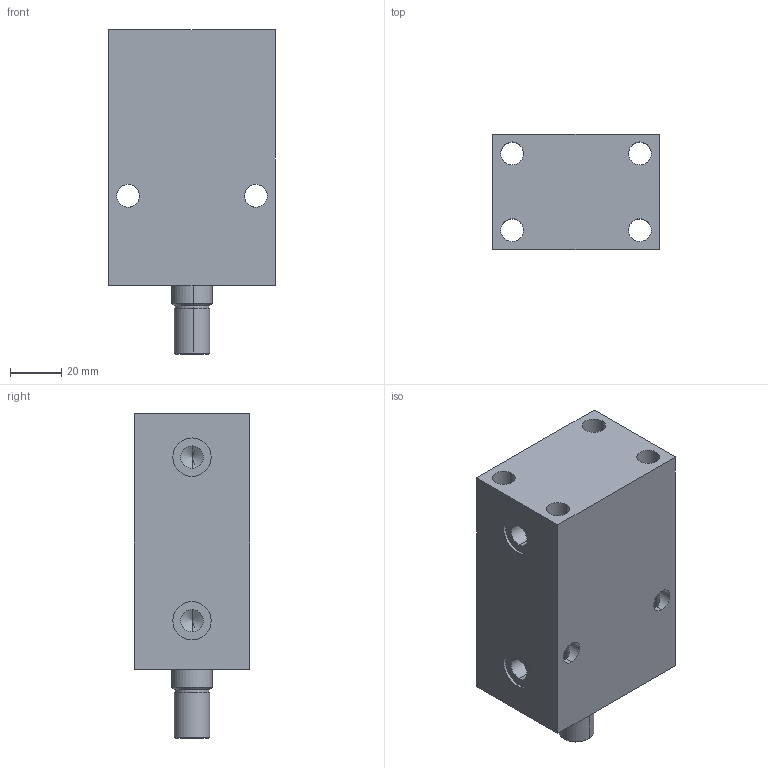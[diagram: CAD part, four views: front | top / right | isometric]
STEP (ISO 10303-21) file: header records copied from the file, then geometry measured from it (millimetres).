
FILE_DESCRIPTION (( 'STEP AP203' ), '1' );
FILE_NAME ('block cylinder B01C-150M.STEP', '2022-07-09T17:57:19', ( '' ), ( '' ), 'SwSTEP 2.0', 'SolidWorks 2017', '' );
FILE_SCHEMA (( 'CONFIG_CONTROL_DESIGN' ));
Length unit declared in the file: millimetre
Products named in the file (3): Body _150M; Piston _ 150M; block cylinder B01C-150M
Assembly tree (2 placements, depth 2):
  block cylinder B01C-150M
    Body _150M
    Piston _ 150M
Bounding box: 65 x 45 x 127 mm (x, y, z)
Volume: 272043.5 mm3; surface area: 46973.9 mm2
Topology: 2 solids, 2 shells, 350 faces, 952 edges, 622 vertices
Faces by surface type: bspline 152, plane 144, cylinder 46, cone 8
Entity records: 17413 total; most frequent: CARTESIAN_POINT 9357, ORIENTED_EDGE 1896, DIRECTION 1082, EDGE_CURVE 948, VERTEX_POINT 622, VECTOR 548, LINE 548, EDGE_LOOP 390
